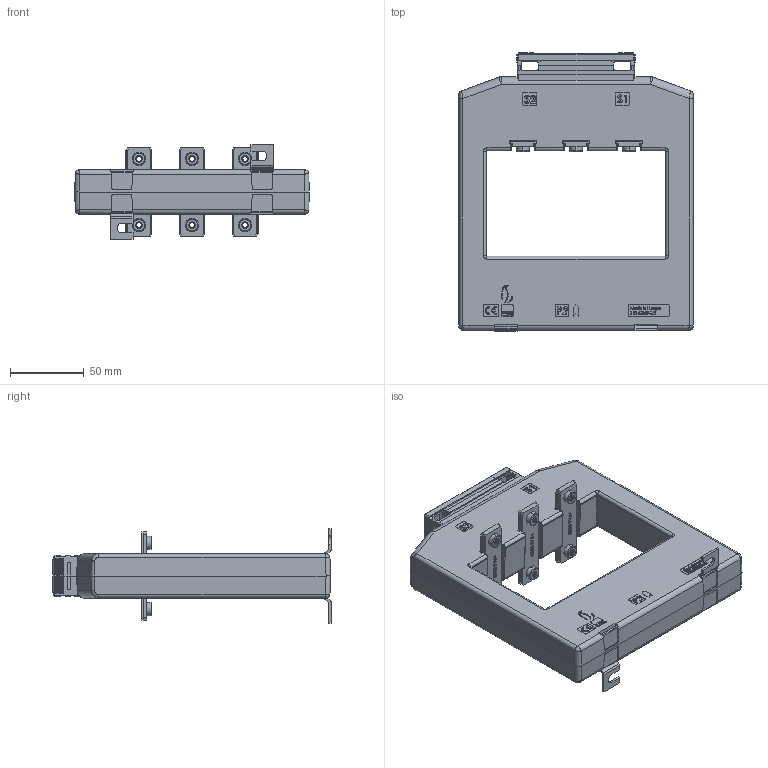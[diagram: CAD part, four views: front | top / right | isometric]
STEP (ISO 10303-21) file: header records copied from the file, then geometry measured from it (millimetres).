
FILE_DESCRIPTION (( 'STEP AP214' ), '1' );
FILE_NAME ('ASK127.3_kpl.STEP', '2023-11-24T20:54:19', ( '' ), ( '' ), 'SwSTEP 2.0', 'SolidWorks 2022', '' );
FILE_SCHEMA (( 'AUTOMOTIVE_DESIGN' ));
Length unit declared in the file: millimetre
Products named in the file (1): ASK127.3_kpl
Bounding box: 159 x 188.53 x 64 mm (x, y, z)
Volume: 565277.2 mm3; surface area: 97972 mm2
Topology: 14 solids, 14 shells, 2452 faces, 6425 edges, 4166 vertices
Faces by surface type: plane 1394, bspline 547, cylinder 284, cone 144, torus 71, sphere 12
Entity records: 121411 total; most frequent: CARTESIAN_POINT 46989, ORIENTED_EDGE 12842, DIRECTION 9586, EDGE_CURVE 6421, LINE 4244, VECTOR 4244, VERTEX_POINT 4166, AXIS2_PLACEMENT_3D 2671
